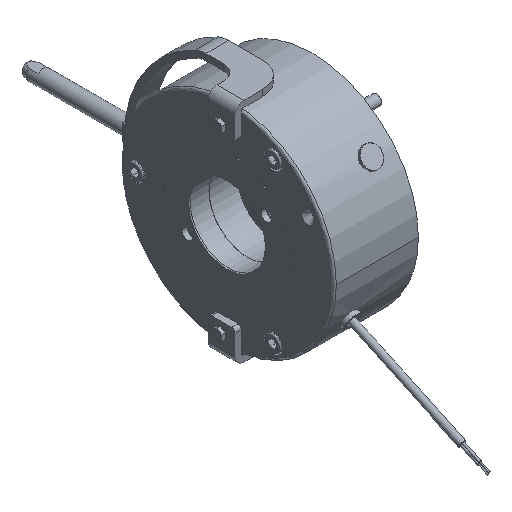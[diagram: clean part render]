
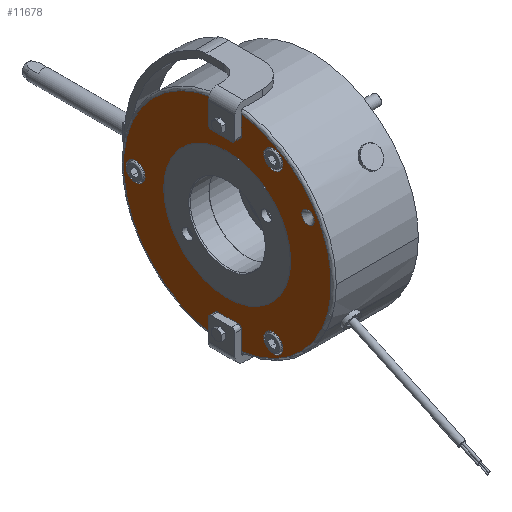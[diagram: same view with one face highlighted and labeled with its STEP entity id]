
A CAD part, isometric view. The second image highlights one B-rep face of the part: STEP entity #11678.
In plain terms, the highlighted planar face has unit normal (-1, 0, 0).
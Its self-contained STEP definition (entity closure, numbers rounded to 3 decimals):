
#806=FACE_BOUND('',#2546,.T.);
#807=FACE_BOUND('',#2547,.T.);
#808=FACE_BOUND('',#2548,.T.);
#809=FACE_BOUND('',#2549,.T.);
#810=FACE_BOUND('',#2550,.T.);
#1103=CIRCLE('',#12484,2.5);
#1104=CIRCLE('',#12487,2.5);
#1105=CIRCLE('',#12490,2.5);
#1106=CIRCLE('',#12492,2.5);
#1198=CIRCLE('',#12648,5.);
#1199=CIRCLE('',#12649,5.);
#1237=CIRCLE('',#12706,82.);
#1238=CIRCLE('',#12707,82.);
#1239=CIRCLE('',#12708,50.);
#1240=CIRCLE('',#12709,50.);
#1241=CIRCLE('',#12710,7.5);
#1242=CIRCLE('',#12711,7.5);
#1243=CIRCLE('',#12712,7.5);
#1244=CIRCLE('',#12713,7.5);
#1245=CIRCLE('',#12714,7.5);
#1246=CIRCLE('',#12715,7.5);
#1878=FACE_OUTER_BOUND('',#2545,.T.);
#2545=EDGE_LOOP('',(#8889,#8890,#8891,#8892,#8893,#8894,#8895,#8896,#8897,
#8898,#8899,#8900));
#2546=EDGE_LOOP('',(#8901,#8902));
#2547=EDGE_LOOP('',(#8903,#8904));
#2548=EDGE_LOOP('',(#8905,#8906));
#2549=EDGE_LOOP('',(#8907,#8908));
#2550=EDGE_LOOP('',(#8909,#8910));
#3240=LINE('',#18488,#3865);
#3251=LINE('',#18520,#3876);
#3268=LINE('',#18575,#3893);
#3274=LINE('',#18588,#3899);
#3283=LINE('',#18628,#3908);
#3286=LINE('',#18636,#3911);
#3865=VECTOR('',#14437,10.);
#3876=VECTOR('',#14464,10.);
#3893=VECTOR('',#14517,10.);
#3899=VECTOR('',#14529,10.);
#3908=VECTOR('',#14574,10.);
#3911=VECTOR('',#14583,10.);
#4674=VERTEX_POINT('',#18461);
#4675=VERTEX_POINT('',#18462);
#4685=VERTEX_POINT('',#18485);
#4686=VERTEX_POINT('',#18487);
#4699=VERTEX_POINT('',#18519);
#4710=VERTEX_POINT('',#18547);
#4719=VERTEX_POINT('',#18574);
#4723=VERTEX_POINT('',#18586);
#4735=VERTEX_POINT('',#18623);
#4736=VERTEX_POINT('',#18627);
#4737=VERTEX_POINT('',#18631);
#4738=VERTEX_POINT('',#18635);
#4861=VERTEX_POINT('',#19095);
#4862=VERTEX_POINT('',#19096);
#4892=VERTEX_POINT('',#19217);
#4893=VERTEX_POINT('',#19218);
#4894=VERTEX_POINT('',#19221);
#4895=VERTEX_POINT('',#19222);
#4896=VERTEX_POINT('',#19225);
#4897=VERTEX_POINT('',#19226);
#4898=VERTEX_POINT('',#19229);
#4899=VERTEX_POINT('',#19230);
#6035=EDGE_CURVE('',#4686,#4685,#3240,.T.);
#6051=EDGE_CURVE('',#4699,#4674,#3251,.T.);
#6079=EDGE_CURVE('',#4719,#4710,#3268,.T.);
#6086=EDGE_CURVE('',#4675,#4723,#3274,.T.);
#6105=EDGE_CURVE('',#4735,#4699,#1103,.T.);
#6107=EDGE_CURVE('',#4736,#4735,#3283,.T.);
#6109=EDGE_CURVE('',#4737,#4719,#1104,.T.);
#6111=EDGE_CURVE('',#4738,#4737,#3286,.T.);
#6113=EDGE_CURVE('',#4685,#4738,#1105,.T.);
#6114=EDGE_CURVE('',#4723,#4736,#1106,.T.);
#6294=EDGE_CURVE('',#4861,#4862,#1198,.T.);
#6295=EDGE_CURVE('',#4862,#4861,#1199,.T.);
#6342=EDGE_CURVE('',#4675,#4710,#1237,.T.);
#6343=EDGE_CURVE('',#4686,#4674,#1238,.T.);
#6344=EDGE_CURVE('',#4892,#4893,#1239,.T.);
#6345=EDGE_CURVE('',#4893,#4892,#1240,.T.);
#6346=EDGE_CURVE('',#4894,#4895,#1241,.T.);
#6347=EDGE_CURVE('',#4895,#4894,#1242,.T.);
#6348=EDGE_CURVE('',#4896,#4897,#1243,.T.);
#6349=EDGE_CURVE('',#4897,#4896,#1244,.T.);
#6350=EDGE_CURVE('',#4898,#4899,#1245,.T.);
#6351=EDGE_CURVE('',#4899,#4898,#1246,.T.);
#8889=ORIENTED_EDGE('',*,*,#6079,.T.);
#8890=ORIENTED_EDGE('',*,*,#6342,.F.);
#8891=ORIENTED_EDGE('',*,*,#6086,.T.);
#8892=ORIENTED_EDGE('',*,*,#6114,.T.);
#8893=ORIENTED_EDGE('',*,*,#6107,.T.);
#8894=ORIENTED_EDGE('',*,*,#6105,.T.);
#8895=ORIENTED_EDGE('',*,*,#6051,.T.);
#8896=ORIENTED_EDGE('',*,*,#6343,.F.);
#8897=ORIENTED_EDGE('',*,*,#6035,.T.);
#8898=ORIENTED_EDGE('',*,*,#6113,.T.);
#8899=ORIENTED_EDGE('',*,*,#6111,.T.);
#8900=ORIENTED_EDGE('',*,*,#6109,.T.);
#8901=ORIENTED_EDGE('',*,*,#6294,.T.);
#8902=ORIENTED_EDGE('',*,*,#6295,.T.);
#8903=ORIENTED_EDGE('',*,*,#6344,.T.);
#8904=ORIENTED_EDGE('',*,*,#6345,.T.);
#8905=ORIENTED_EDGE('',*,*,#6346,.T.);
#8906=ORIENTED_EDGE('',*,*,#6347,.T.);
#8907=ORIENTED_EDGE('',*,*,#6348,.T.);
#8908=ORIENTED_EDGE('',*,*,#6349,.T.);
#8909=ORIENTED_EDGE('',*,*,#6350,.T.);
#8910=ORIENTED_EDGE('',*,*,#6351,.T.);
#10651=PLANE('',#12705);
#11678=ADVANCED_FACE('',(#1878,#806,#807,#808,#809,#810),#10651,.T.);
#12484=AXIS2_PLACEMENT_3D('',#18624,#14569,#14570);
#12487=AXIS2_PLACEMENT_3D('',#18632,#14578,#14579);
#12490=AXIS2_PLACEMENT_3D('',#18639,#14587,#14588);
#12492=AXIS2_PLACEMENT_3D('',#18641,#14591,#14592);
#12648=AXIS2_PLACEMENT_3D('',#19097,#14969,#14970);
#12649=AXIS2_PLACEMENT_3D('',#19098,#14971,#14972);
#12705=AXIS2_PLACEMENT_3D('',#19214,#15091,#15092);
#12706=AXIS2_PLACEMENT_3D('',#19215,#15093,#15094);
#12707=AXIS2_PLACEMENT_3D('',#19216,#15095,#15096);
#12708=AXIS2_PLACEMENT_3D('',#19219,#15097,#15098);
#12709=AXIS2_PLACEMENT_3D('',#19220,#15099,#15100);
#12710=AXIS2_PLACEMENT_3D('',#19223,#15101,#15102);
#12711=AXIS2_PLACEMENT_3D('',#19224,#15103,#15104);
#12712=AXIS2_PLACEMENT_3D('',#19227,#15105,#15106);
#12713=AXIS2_PLACEMENT_3D('',#19228,#15107,#15108);
#12714=AXIS2_PLACEMENT_3D('',#19231,#15109,#15110);
#12715=AXIS2_PLACEMENT_3D('',#19232,#15111,#15112);
#14437=DIRECTION('',(0.,0.,-1.));
#14464=DIRECTION('',(0.,0.,-1.));
#14517=DIRECTION('',(0.,0.,1.));
#14529=DIRECTION('',(0.,0.,1.));
#14569=DIRECTION('center_axis',(1.,0.,0.));
#14570=DIRECTION('ref_axis',(0.,-0.707,0.707));
#14574=DIRECTION('',(0.,-1.,0.));
#14578=DIRECTION('center_axis',(1.,0.,0.));
#14579=DIRECTION('ref_axis',(0.,0.707,-0.707));
#14583=DIRECTION('',(0.,1.,0.));
#14587=DIRECTION('center_axis',(1.,0.,0.));
#14588=DIRECTION('ref_axis',(0.,-0.707,-0.707));
#14591=DIRECTION('center_axis',(1.,0.,0.));
#14592=DIRECTION('ref_axis',(0.,0.707,0.707));
#14969=DIRECTION('center_axis',(1.,0.,0.));
#14970=DIRECTION('ref_axis',(0.,0.,1.));
#14971=DIRECTION('center_axis',(1.,0.,0.));
#14972=DIRECTION('ref_axis',(0.,0.,1.));
#15091=DIRECTION('center_axis',(-1.,0.,0.));
#15092=DIRECTION('ref_axis',(0.,0.,1.));
#15093=DIRECTION('center_axis',(1.,0.,0.));
#15094=DIRECTION('ref_axis',(0.,-1.,0.));
#15095=DIRECTION('center_axis',(1.,0.,0.));
#15096=DIRECTION('ref_axis',(0.,-1.,0.));
#15097=DIRECTION('center_axis',(1.,0.,0.));
#15098=DIRECTION('ref_axis',(0.,1.,0.));
#15099=DIRECTION('center_axis',(1.,0.,0.));
#15100=DIRECTION('ref_axis',(0.,1.,0.));
#15101=DIRECTION('center_axis',(1.,0.,0.));
#15102=DIRECTION('ref_axis',(0.,0.,1.));
#15103=DIRECTION('center_axis',(1.,0.,0.));
#15104=DIRECTION('ref_axis',(0.,0.,1.));
#15105=DIRECTION('center_axis',(1.,0.,0.));
#15106=DIRECTION('ref_axis',(0.,0.,1.));
#15107=DIRECTION('center_axis',(1.,0.,0.));
#15108=DIRECTION('ref_axis',(0.,0.,1.));
#15109=DIRECTION('center_axis',(1.,0.,0.));
#15110=DIRECTION('ref_axis',(0.,0.,1.));
#15111=DIRECTION('center_axis',(1.,0.,0.));
#15112=DIRECTION('ref_axis',(0.,0.,1.));
#18461=CARTESIAN_POINT('',(-66.8,-11.,-81.259));
#18462=CARTESIAN_POINT('',(-66.8,10.,-81.388));
#18485=CARTESIAN_POINT('',(-66.8,-11.,66.));
#18487=CARTESIAN_POINT('',(-66.8,-11.,81.259));
#18488=CARTESIAN_POINT('',(-66.8,-11.,44.75));
#18519=CARTESIAN_POINT('',(-66.8,-11.,-66.));
#18520=CARTESIAN_POINT('',(-66.8,-11.,-42.25));
#18547=CARTESIAN_POINT('',(-66.8,10.,81.388));
#18574=CARTESIAN_POINT('',(-66.8,10.,66.));
#18575=CARTESIAN_POINT('',(-66.8,10.,42.25));
#18586=CARTESIAN_POINT('',(-66.8,10.,-66.));
#18588=CARTESIAN_POINT('',(-66.8,10.,-44.75));
#18623=CARTESIAN_POINT('',(-66.8,-8.5,-63.5));
#18624=CARTESIAN_POINT('Origin',(-66.8,-8.5,-66.));
#18627=CARTESIAN_POINT('',(-66.8,7.5,-63.5));
#18628=CARTESIAN_POINT('',(-66.8,38.5,-63.5));
#18631=CARTESIAN_POINT('',(-66.8,7.5,63.5));
#18632=CARTESIAN_POINT('Origin',(-66.8,7.5,66.));
#18635=CARTESIAN_POINT('',(-66.8,-8.5,63.5));
#18636=CARTESIAN_POINT('',(-66.8,28.,63.5));
#18639=CARTESIAN_POINT('Origin',(-66.8,-8.5,66.));
#18641=CARTESIAN_POINT('Origin',(-66.8,7.5,-66.));
#19095=CARTESIAN_POINT('',(-66.8,-63.653,41.75));
#19096=CARTESIAN_POINT('',(-66.8,-63.653,31.75));
#19097=CARTESIAN_POINT('Origin',(-66.8,-63.653,36.75));
#19098=CARTESIAN_POINT('Origin',(-66.8,-63.653,36.75));
#19214=CARTESIAN_POINT('Origin',(-66.8,67.,0.));
#19215=CARTESIAN_POINT('Origin',(-66.8,0.,0.));
#19216=CARTESIAN_POINT('Origin',(-66.8,0.,0.));
#19217=CARTESIAN_POINT('',(-66.8,50.,0.));
#19218=CARTESIAN_POINT('',(-66.8,-50.,0.));
#19219=CARTESIAN_POINT('Origin',(-66.8,0.,0.));
#19220=CARTESIAN_POINT('Origin',(-66.8,0.,0.));
#19221=CARTESIAN_POINT('',(-66.8,72.5,7.5));
#19222=CARTESIAN_POINT('',(-66.8,72.5,-7.5));
#19223=CARTESIAN_POINT('Origin',(-66.8,72.5,0.));
#19224=CARTESIAN_POINT('Origin',(-66.8,72.5,0.));
#19225=CARTESIAN_POINT('',(-66.8,-36.25,-55.287));
#19226=CARTESIAN_POINT('',(-66.8,-36.25,-70.287));
#19227=CARTESIAN_POINT('Origin',(-66.8,-36.25,-62.787));
#19228=CARTESIAN_POINT('Origin',(-66.8,-36.25,-62.787));
#19229=CARTESIAN_POINT('',(-66.8,-36.25,70.287));
#19230=CARTESIAN_POINT('',(-66.8,-36.25,55.287));
#19231=CARTESIAN_POINT('Origin',(-66.8,-36.25,62.787));
#19232=CARTESIAN_POINT('Origin',(-66.8,-36.25,62.787));
